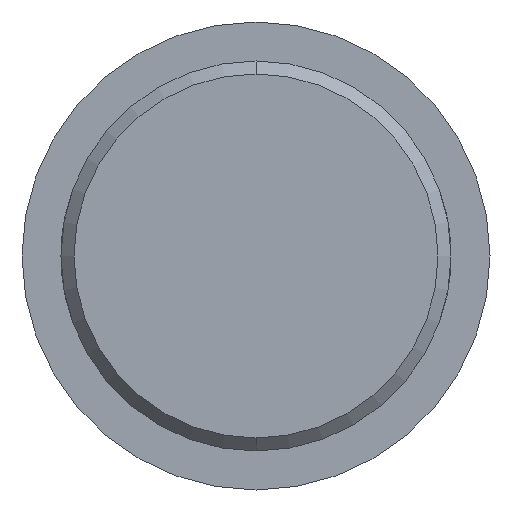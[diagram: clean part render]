
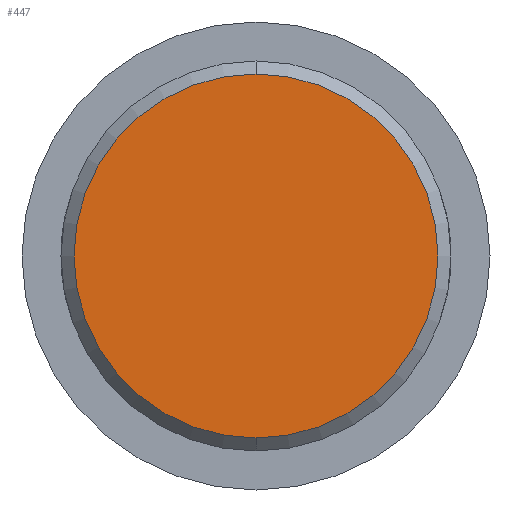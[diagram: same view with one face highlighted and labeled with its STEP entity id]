
A CAD part, front view. The second image highlights one B-rep face of the part: STEP entity #447.
In plain terms, the highlighted planar face has unit normal (0, -1, 0).
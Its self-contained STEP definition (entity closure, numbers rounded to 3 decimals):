
#12 = EDGE_CURVE ( 'NONE', #522, #227, #391, .T. ) ;
#18 = AXIS2_PLACEMENT_3D ( 'NONE', #217, #504, #384 ) ;
#54 = ORIENTED_EDGE ( 'NONE', *, *, #67, .T. ) ;
#67 = EDGE_CURVE ( 'NONE', #227, #522, #371, .T. ) ;
#135 = DIRECTION ( 'NONE',  ( 0., -1., 0. ) ) ;
#141 = DIRECTION ( 'NONE',  ( 0., 0., -1. ) ) ;
#150 = AXIS2_PLACEMENT_3D ( 'NONE', #311, #399, #141 ) ;
#194 = FACE_OUTER_BOUND ( 'NONE', #222, .T. ) ;
#210 = ORIENTED_EDGE ( 'NONE', *, *, #12, .T. ) ;
#217 = CARTESIAN_POINT ( 'NONE',  ( 0., -77., 0. ) ) ;
#222 = EDGE_LOOP ( 'NONE', ( #54, #210 ) ) ;
#227 = VERTEX_POINT ( 'NONE', #534 ) ;
#311 = CARTESIAN_POINT ( 'NONE',  ( 0., -77., 0. ) ) ;
#354 = CARTESIAN_POINT ( 'NONE',  ( 0., -77., 0. ) ) ;
#371 = CIRCLE ( 'NONE', #18, 14. ) ;
#384 = DIRECTION ( 'NONE',  ( 0., 0., -1. ) ) ;
#391 = CIRCLE ( 'NONE', #150, 14. ) ;
#396 = DIRECTION ( 'NONE',  ( 0., 0., -1. ) ) ;
#397 = PLANE ( 'NONE',  #539 ) ;
#399 = DIRECTION ( 'NONE',  ( 0., -1., 0. ) ) ;
#447 = ADVANCED_FACE ( 'NONE', ( #194 ), #397, .T. ) ;
#482 = CARTESIAN_POINT ( 'NONE',  ( 0., -77., -14. ) ) ;
#504 = DIRECTION ( 'NONE',  ( 0., -1., 0. ) ) ;
#522 = VERTEX_POINT ( 'NONE', #482 ) ;
#534 = CARTESIAN_POINT ( 'NONE',  ( 0., -77., 14. ) ) ;
#539 = AXIS2_PLACEMENT_3D ( 'NONE', #354, #135, #396 ) ;
